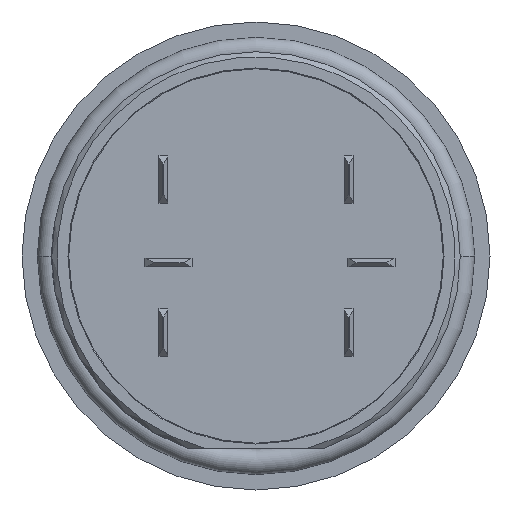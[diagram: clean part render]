
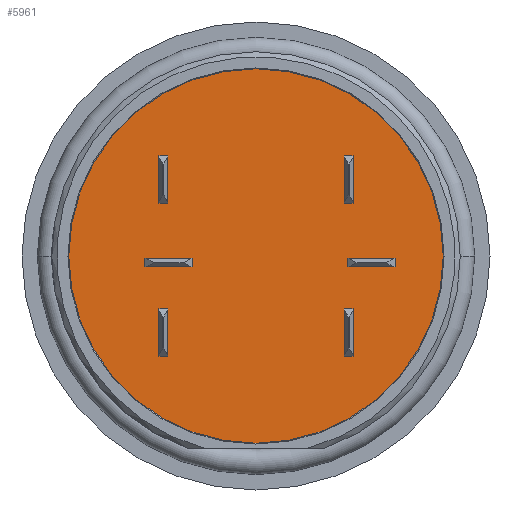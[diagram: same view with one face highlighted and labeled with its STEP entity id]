
A CAD part, front view. The second image highlights one B-rep face of the part: STEP entity #5961.
In plain terms, the highlighted planar face has unit normal (0, -1, 0).
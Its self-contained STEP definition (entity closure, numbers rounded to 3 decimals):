
#569=CARTESIAN_POINT('',(0.,-22.5,0.));
#570=DIRECTION('',(0.,-1.,0.));
#571=DIRECTION('',(0.,0.,-1.));
#572=AXIS2_PLACEMENT_3D('',#569,#570,#571);
#574=CARTESIAN_POINT('',(0.,-22.5,0.));
#575=DIRECTION('',(0.,-1.,0.));
#576=DIRECTION('',(0.,0.,1.));
#577=AXIS2_PLACEMENT_3D('',#574,#575,#576);
#579=DIRECTION('',(0.,0.,-1.));
#580=VECTOR('',#579,0.5);
#581=CARTESIAN_POINT('',(5.375,-22.5,-0.14));
#582=LINE('',#581,#580);
#595=DIRECTION('',(1.,0.,0.));
#596=VECTOR('',#595,2.8);
#597=CARTESIAN_POINT('',(5.375,-22.5,-0.14));
#598=LINE('',#597,#596);
#629=DIRECTION('',(0.,0.,-1.));
#630=VECTOR('',#629,0.5);
#631=CARTESIAN_POINT('',(8.175,-22.5,-0.14));
#632=LINE('',#631,#630);
#645=DIRECTION('',(1.,0.,0.));
#646=VECTOR('',#645,2.8);
#647=CARTESIAN_POINT('',(5.375,-22.5,-0.64));
#648=LINE('',#647,#646);
#727=DIRECTION('',(0.,0.,-1.));
#728=VECTOR('',#727,0.5);
#729=CARTESIAN_POINT('',(-6.525,-22.5,-0.14));
#730=LINE('',#729,#728);
#743=DIRECTION('',(1.,0.,0.));
#744=VECTOR('',#743,2.8);
#745=CARTESIAN_POINT('',(-6.525,-22.5,-0.14));
#746=LINE('',#745,#744);
#777=DIRECTION('',(0.,0.,-1.));
#778=VECTOR('',#777,0.5);
#779=CARTESIAN_POINT('',(-3.725,-22.5,-0.14));
#780=LINE('',#779,#778);
#793=DIRECTION('',(1.,0.,0.));
#794=VECTOR('',#793,2.8);
#795=CARTESIAN_POINT('',(-6.525,-22.5,-0.64));
#796=LINE('',#795,#794);
#875=DIRECTION('',(-1.,0.,0.));
#876=VECTOR('',#875,0.5);
#877=CARTESIAN_POINT('',(-5.2,-22.5,5.9));
#878=LINE('',#877,#876);
#891=DIRECTION('',(0.,0.,-1.));
#892=VECTOR('',#891,2.8);
#893=CARTESIAN_POINT('',(-5.2,-22.5,5.9));
#894=LINE('',#893,#892);
#925=DIRECTION('',(-1.,0.,0.));
#926=VECTOR('',#925,0.5);
#927=CARTESIAN_POINT('',(-5.2,-22.5,3.1));
#928=LINE('',#927,#926);
#941=DIRECTION('',(0.,0.,-1.));
#942=VECTOR('',#941,2.8);
#943=CARTESIAN_POINT('',(-5.7,-22.5,5.9));
#944=LINE('',#943,#942);
#1023=DIRECTION('',(1.,0.,0.));
#1024=VECTOR('',#1023,0.5);
#1025=CARTESIAN_POINT('',(5.2,-22.5,3.1));
#1026=LINE('',#1025,#1024);
#1039=DIRECTION('',(0.,0.,1.));
#1040=VECTOR('',#1039,2.8);
#1041=CARTESIAN_POINT('',(5.2,-22.5,3.1));
#1042=LINE('',#1041,#1040);
#1073=DIRECTION('',(1.,0.,0.));
#1074=VECTOR('',#1073,0.5);
#1075=CARTESIAN_POINT('',(5.2,-22.5,5.9));
#1076=LINE('',#1075,#1074);
#1089=DIRECTION('',(0.,0.,1.));
#1090=VECTOR('',#1089,2.8);
#1091=CARTESIAN_POINT('',(5.7,-22.5,3.1));
#1092=LINE('',#1091,#1090);
#1171=DIRECTION('',(-1.,0.,0.));
#1172=VECTOR('',#1171,0.5);
#1173=CARTESIAN_POINT('',(-5.2,-22.5,-3.1));
#1174=LINE('',#1173,#1172);
#1187=DIRECTION('',(0.,0.,-1.));
#1188=VECTOR('',#1187,2.8);
#1189=CARTESIAN_POINT('',(-5.2,-22.5,-3.1));
#1190=LINE('',#1189,#1188);
#1221=DIRECTION('',(-1.,0.,0.));
#1222=VECTOR('',#1221,0.5);
#1223=CARTESIAN_POINT('',(-5.2,-22.5,-5.9));
#1224=LINE('',#1223,#1222);
#1237=DIRECTION('',(0.,0.,-1.));
#1238=VECTOR('',#1237,2.8);
#1239=CARTESIAN_POINT('',(-5.7,-22.5,-3.1));
#1240=LINE('',#1239,#1238);
#1319=DIRECTION('',(1.,0.,0.));
#1320=VECTOR('',#1319,0.5);
#1321=CARTESIAN_POINT('',(5.2,-22.5,-5.9));
#1322=LINE('',#1321,#1320);
#1335=DIRECTION('',(0.,0.,1.));
#1336=VECTOR('',#1335,2.8);
#1337=CARTESIAN_POINT('',(5.2,-22.5,-5.9));
#1338=LINE('',#1337,#1336);
#1369=DIRECTION('',(1.,0.,0.));
#1370=VECTOR('',#1369,0.5);
#1371=CARTESIAN_POINT('',(5.2,-22.5,-3.1));
#1372=LINE('',#1371,#1370);
#1385=DIRECTION('',(0.,0.,1.));
#1386=VECTOR('',#1385,2.8);
#1387=CARTESIAN_POINT('',(5.7,-22.5,-5.9));
#1388=LINE('',#1387,#1386);
#5013=CARTESIAN_POINT('',(0.,-22.5,-11.));
#5014=CARTESIAN_POINT('',(0.,-22.5,11.));
#5015=VERTEX_POINT('',#5013);
#5016=VERTEX_POINT('',#5014);
#5065=CARTESIAN_POINT('',(5.375,-22.5,-0.14));
#5066=CARTESIAN_POINT('',(5.375,-22.5,-0.64));
#5067=VERTEX_POINT('',#5065);
#5068=VERTEX_POINT('',#5066);
#5073=CARTESIAN_POINT('',(8.175,-22.5,-0.14));
#5074=CARTESIAN_POINT('',(8.175,-22.5,-0.64));
#5075=VERTEX_POINT('',#5073);
#5076=VERTEX_POINT('',#5074);
#5081=CARTESIAN_POINT('',(-6.525,-22.5,-0.14));
#5082=CARTESIAN_POINT('',(-6.525,-22.5,-0.64));
#5083=VERTEX_POINT('',#5081);
#5084=VERTEX_POINT('',#5082);
#5089=CARTESIAN_POINT('',(-3.725,-22.5,-0.14));
#5090=CARTESIAN_POINT('',(-3.725,-22.5,-0.64));
#5091=VERTEX_POINT('',#5089);
#5092=VERTEX_POINT('',#5090);
#5097=CARTESIAN_POINT('',(-5.2,-22.5,5.9));
#5098=CARTESIAN_POINT('',(-5.7,-22.5,5.9));
#5099=VERTEX_POINT('',#5097);
#5100=VERTEX_POINT('',#5098);
#5105=CARTESIAN_POINT('',(-5.2,-22.5,3.1));
#5106=CARTESIAN_POINT('',(-5.7,-22.5,3.1));
#5107=VERTEX_POINT('',#5105);
#5108=VERTEX_POINT('',#5106);
#5113=CARTESIAN_POINT('',(5.2,-22.5,3.1));
#5114=CARTESIAN_POINT('',(5.7,-22.5,3.1));
#5115=VERTEX_POINT('',#5113);
#5116=VERTEX_POINT('',#5114);
#5121=CARTESIAN_POINT('',(5.2,-22.5,5.9));
#5122=CARTESIAN_POINT('',(5.7,-22.5,5.9));
#5123=VERTEX_POINT('',#5121);
#5124=VERTEX_POINT('',#5122);
#5129=CARTESIAN_POINT('',(-5.2,-22.5,-3.1));
#5130=CARTESIAN_POINT('',(-5.7,-22.5,-3.1));
#5131=VERTEX_POINT('',#5129);
#5132=VERTEX_POINT('',#5130);
#5137=CARTESIAN_POINT('',(-5.2,-22.5,-5.9));
#5138=CARTESIAN_POINT('',(-5.7,-22.5,-5.9));
#5139=VERTEX_POINT('',#5137);
#5140=VERTEX_POINT('',#5138);
#5145=CARTESIAN_POINT('',(5.2,-22.5,-5.9));
#5146=CARTESIAN_POINT('',(5.7,-22.5,-5.9));
#5147=VERTEX_POINT('',#5145);
#5148=VERTEX_POINT('',#5146);
#5153=CARTESIAN_POINT('',(5.2,-22.5,-3.1));
#5154=CARTESIAN_POINT('',(5.7,-22.5,-3.1));
#5155=VERTEX_POINT('',#5153);
#5156=VERTEX_POINT('',#5154);
#5892=CARTESIAN_POINT('',(0.,-22.5,0.));
#5893=DIRECTION('',(0.,-1.,0.));
#5894=DIRECTION('',(-1.,0.,0.));
#5895=AXIS2_PLACEMENT_3D('',#5892,#5893,#5894);
#5896=PLANE('',#5895);
#5897=ORIENTED_EDGE('',*,*,#5856,.F.);
#5898=ORIENTED_EDGE('',*,*,#5886,.F.);
#5899=EDGE_LOOP('',(#5897,#5898));
#5900=FACE_OUTER_BOUND('',#5899,.F.);
#5902=ORIENTED_EDGE('',*,*,#5901,.T.);
#5904=ORIENTED_EDGE('',*,*,#5903,.T.);
#5906=ORIENTED_EDGE('',*,*,#5905,.F.);
#5908=ORIENTED_EDGE('',*,*,#5907,.F.);
#5909=EDGE_LOOP('',(#5902,#5904,#5906,#5908));
#5910=FACE_BOUND('',#5909,.F.);
#5912=ORIENTED_EDGE('',*,*,#5911,.T.);
#5914=ORIENTED_EDGE('',*,*,#5913,.T.);
#5916=ORIENTED_EDGE('',*,*,#5915,.F.);
#5918=ORIENTED_EDGE('',*,*,#5917,.F.);
#5919=EDGE_LOOP('',(#5912,#5914,#5916,#5918));
#5920=FACE_BOUND('',#5919,.F.);
#5922=ORIENTED_EDGE('',*,*,#5921,.T.);
#5924=ORIENTED_EDGE('',*,*,#5923,.T.);
#5926=ORIENTED_EDGE('',*,*,#5925,.F.);
#5928=ORIENTED_EDGE('',*,*,#5927,.F.);
#5929=EDGE_LOOP('',(#5922,#5924,#5926,#5928));
#5930=FACE_BOUND('',#5929,.F.);
#5932=ORIENTED_EDGE('',*,*,#5931,.T.);
#5934=ORIENTED_EDGE('',*,*,#5933,.T.);
#5936=ORIENTED_EDGE('',*,*,#5935,.F.);
#5938=ORIENTED_EDGE('',*,*,#5937,.F.);
#5939=EDGE_LOOP('',(#5932,#5934,#5936,#5938));
#5940=FACE_BOUND('',#5939,.F.);
#5942=ORIENTED_EDGE('',*,*,#5941,.T.);
#5944=ORIENTED_EDGE('',*,*,#5943,.T.);
#5946=ORIENTED_EDGE('',*,*,#5945,.F.);
#5948=ORIENTED_EDGE('',*,*,#5947,.F.);
#5949=EDGE_LOOP('',(#5942,#5944,#5946,#5948));
#5950=FACE_BOUND('',#5949,.F.);
#5952=ORIENTED_EDGE('',*,*,#5951,.T.);
#5954=ORIENTED_EDGE('',*,*,#5953,.T.);
#5956=ORIENTED_EDGE('',*,*,#5955,.F.);
#5958=ORIENTED_EDGE('',*,*,#5957,.F.);
#5959=EDGE_LOOP('',(#5952,#5954,#5956,#5958));
#5960=FACE_BOUND('',#5959,.F.);
#5961=ADVANCED_FACE('',(#5900,#5910,#5920,#5930,#5940,#5950,#5960),#5896,.T.);
#573=CIRCLE('',#572,11.);
#578=CIRCLE('',#577,11.);
#5856=EDGE_CURVE('',#5015,#5016,#573,.T.);
#5886=EDGE_CURVE('',#5016,#5015,#578,.T.);
#5901=EDGE_CURVE('',#5067,#5068,#582,.T.);
#5903=EDGE_CURVE('',#5068,#5076,#648,.T.);
#5905=EDGE_CURVE('',#5075,#5076,#632,.T.);
#5907=EDGE_CURVE('',#5067,#5075,#598,.T.);
#5911=EDGE_CURVE('',#5083,#5084,#730,.T.);
#5913=EDGE_CURVE('',#5084,#5092,#796,.T.);
#5915=EDGE_CURVE('',#5091,#5092,#780,.T.);
#5917=EDGE_CURVE('',#5083,#5091,#746,.T.);
#5921=EDGE_CURVE('',#5099,#5100,#878,.T.);
#5923=EDGE_CURVE('',#5100,#5108,#944,.T.);
#5925=EDGE_CURVE('',#5107,#5108,#928,.T.);
#5927=EDGE_CURVE('',#5099,#5107,#894,.T.);
#5931=EDGE_CURVE('',#5115,#5116,#1026,.T.);
#5933=EDGE_CURVE('',#5116,#5124,#1092,.T.);
#5935=EDGE_CURVE('',#5123,#5124,#1076,.T.);
#5937=EDGE_CURVE('',#5115,#5123,#1042,.T.);
#5941=EDGE_CURVE('',#5131,#5132,#1174,.T.);
#5943=EDGE_CURVE('',#5132,#5140,#1240,.T.);
#5945=EDGE_CURVE('',#5139,#5140,#1224,.T.);
#5947=EDGE_CURVE('',#5131,#5139,#1190,.T.);
#5951=EDGE_CURVE('',#5147,#5148,#1322,.T.);
#5953=EDGE_CURVE('',#5148,#5156,#1388,.T.);
#5955=EDGE_CURVE('',#5155,#5156,#1372,.T.);
#5957=EDGE_CURVE('',#5147,#5155,#1338,.T.);
